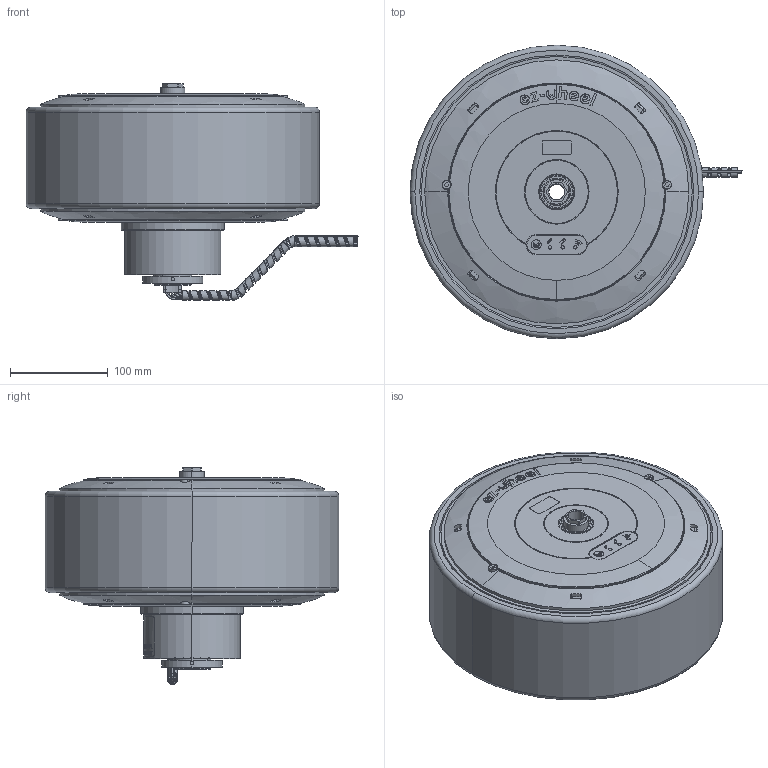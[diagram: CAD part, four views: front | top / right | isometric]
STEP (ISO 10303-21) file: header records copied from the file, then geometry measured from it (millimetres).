
FILE_DESCRIPTION (( 'STEP AP203' ), '1' );
FILE_NAME ('ezW300ICC (STEP 3D).STEP', '2016-10-24T09:37:53', ( '' ), ( '' ), 'SwSTEP 2.0', 'SolidWorks 2014', '' );
FILE_SCHEMA (( 'CONFIG_CONTROL_DESIGN' ));
Length unit declared in the file: millimetre
Products named in the file (1): ezW300ICC (STEP 3D)
Bounding box: 339.33 x 300 x 221.6 mm (x, y, z)
Surface area: 418578.2 mm2 (no closed solid volume)
Topology: 0 solids, 54 shells, 793 faces, 3008 edges, 2264 vertices
Faces by surface type: cylinder 275, plane 223, bspline 139, torus 122, cone 30, sphere 4
Entity records: 43493 total; most frequent: CARTESIAN_POINT 20476, ORIENTED_EDGE 4630, DIRECTION 4187, EDGE_CURVE 3008, VERTEX_POINT 2264, AXIS2_PLACEMENT_3D 1637, CIRCLE 982, EDGE_LOOP 980
